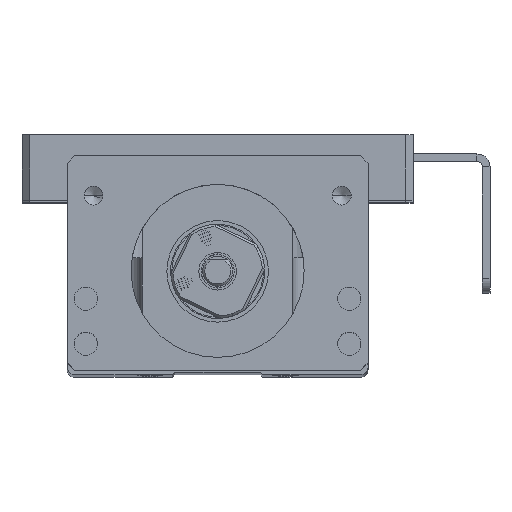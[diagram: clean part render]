
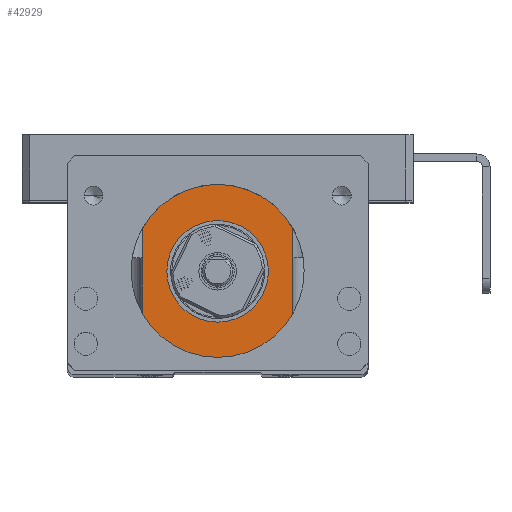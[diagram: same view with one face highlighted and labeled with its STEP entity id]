
A CAD part, top view. The second image highlights one B-rep face of the part: STEP entity #42929.
In plain terms, the highlighted planar face has unit normal (0, 0, 1).
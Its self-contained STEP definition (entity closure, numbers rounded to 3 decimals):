
#379 = ORIENTED_EDGE ( 'NONE', *, *, #13794, .F. ) ;
#3740 = CARTESIAN_POINT ( 'NONE',  ( -13., 0.5, 115. ) ) ;
#4158 = EDGE_CURVE ( 'NONE', #66725, #23850, #46951, .T. ) ;
#6674 = EDGE_LOOP ( 'NONE', ( #379, #6995 ) ) ;
#6995 = ORIENTED_EDGE ( 'NONE', *, *, #51551, .F. ) ;
#7680 = VECTOR ( 'NONE', #20726, 1000. ) ;
#8580 = CARTESIAN_POINT ( 'NONE',  ( -10., 15.5, 115. ) ) ;
#8888 = CARTESIAN_POINT ( 'NONE',  ( 0., 13.7, 115. ) ) ;
#9712 = DIRECTION ( 'NONE',  ( -1., 0., 0. ) ) ;
#13794 = EDGE_CURVE ( 'NONE', #64040, #63838, #72293, .T. ) ;
#16997 = LINE ( 'NONE', #65296, #27747 ) ;
#17534 = DIRECTION ( 'NONE',  ( 0., 0., 1. ) ) ;
#19823 = VECTOR ( 'NONE', #28355, 1000. ) ;
#20726 = DIRECTION ( 'NONE',  ( 0., 1., 0. ) ) ;
#21917 = CARTESIAN_POINT ( 'NONE',  ( -6.75, 13.7, 115. ) ) ;
#21958 = DIRECTION ( 'NONE',  ( 1., 0., 0. ) ) ;
#23850 = VERTEX_POINT ( 'NONE', #29173 ) ;
#24807 = ORIENTED_EDGE ( 'NONE', *, *, #64185, .T. ) ;
#25414 = VECTOR ( 'NONE', #58001, 1000. ) ;
#26913 = VERTEX_POINT ( 'NONE', #8580 ) ;
#27132 = PLANE ( 'NONE',  #35530 ) ;
#27747 = VECTOR ( 'NONE', #35181, 1000. ) ;
#27817 = LINE ( 'NONE', #76472, #7680 ) ;
#28355 = DIRECTION ( 'NONE',  ( 0., 1., 0. ) ) ;
#28740 = LINE ( 'NONE', #64388, #19823 ) ;
#29092 = CARTESIAN_POINT ( 'NONE',  ( -13., 0.5, 115. ) ) ;
#29173 = CARTESIAN_POINT ( 'NONE',  ( -10., 29., 115. ) ) ;
#32217 = ORIENTED_EDGE ( 'NONE', *, *, #40944, .T. ) ;
#33570 = EDGE_CURVE ( 'NONE', #41563, #72033, #27817, .T. ) ;
#35007 = CARTESIAN_POINT ( 'NONE',  ( 10., 15.5, 115. ) ) ;
#35027 = CARTESIAN_POINT ( 'NONE',  ( -13., 29., 115. ) ) ;
#35181 = DIRECTION ( 'NONE',  ( 0., -1., 0. ) ) ;
#35530 = AXIS2_PLACEMENT_3D ( 'NONE', #3740, #69867, #9712 ) ;
#35690 = CIRCLE ( 'NONE', #63571, 6.75 ) ;
#36018 = EDGE_CURVE ( 'NONE', #26913, #46728, #44992, .T. ) ;
#36406 = EDGE_LOOP ( 'NONE', ( #61181, #32217, #38965, #43931, #76347, #24807 ) ) ;
#38099 = CARTESIAN_POINT ( 'NONE',  ( 10., 0.5, 115. ) ) ;
#38965 = ORIENTED_EDGE ( 'NONE', *, *, #36018, .T. ) ;
#40673 = AXIS2_PLACEMENT_3D ( 'NONE', #65429, #17534, #41654 ) ;
#40944 = EDGE_CURVE ( 'NONE', #23850, #26913, #16997, .T. ) ;
#41563 = VERTEX_POINT ( 'NONE', #38099 ) ;
#41654 = DIRECTION ( 'NONE',  ( 1., 0., 0. ) ) ;
#42929 = ADVANCED_FACE ( 'NONE', ( #57217, #75400 ), #27132, .F. ) ;
#43931 = ORIENTED_EDGE ( 'NONE', *, *, #52459, .F. ) ;
#44992 = LINE ( 'NONE', #75807, #51172 ) ;
#46728 = VERTEX_POINT ( 'NONE', #65861 ) ;
#46951 = LINE ( 'NONE', #35027, #25414 ) ;
#51172 = VECTOR ( 'NONE', #57246, 1000. ) ;
#51551 = EDGE_CURVE ( 'NONE', #63838, #64040, #35690, .T. ) ;
#52459 = EDGE_CURVE ( 'NONE', #41563, #46728, #76562, .T. ) ;
#52598 = CARTESIAN_POINT ( 'NONE',  ( 6.75, 13.7, 115. ) ) ;
#57217 = FACE_BOUND ( 'NONE', #6674, .T. ) ;
#57246 = DIRECTION ( 'NONE',  ( 0., -1., 0. ) ) ;
#58001 = DIRECTION ( 'NONE',  ( -1., 0., 0. ) ) ;
#61181 = ORIENTED_EDGE ( 'NONE', *, *, #4158, .T. ) ;
#62378 = VECTOR ( 'NONE', #76958, 1000. ) ;
#63571 = AXIS2_PLACEMENT_3D ( 'NONE', #8888, #68675, #21958 ) ;
#63838 = VERTEX_POINT ( 'NONE', #21917 ) ;
#64040 = VERTEX_POINT ( 'NONE', #52598 ) ;
#64122 = CARTESIAN_POINT ( 'NONE',  ( 10., 29., 115. ) ) ;
#64185 = EDGE_CURVE ( 'NONE', #72033, #66725, #28740, .T. ) ;
#64388 = CARTESIAN_POINT ( 'NONE',  ( 10., 29., 115. ) ) ;
#65296 = CARTESIAN_POINT ( 'NONE',  ( -10., 0.5, 115. ) ) ;
#65429 = CARTESIAN_POINT ( 'NONE',  ( 0., 13.7, 115. ) ) ;
#65861 = CARTESIAN_POINT ( 'NONE',  ( -10., 0.5, 115. ) ) ;
#66725 = VERTEX_POINT ( 'NONE', #64122 ) ;
#68675 = DIRECTION ( 'NONE',  ( 0., 0., 1. ) ) ;
#69867 = DIRECTION ( 'NONE',  ( 0., 0., -1. ) ) ;
#72033 = VERTEX_POINT ( 'NONE', #35007 ) ;
#72293 = CIRCLE ( 'NONE', #40673, 6.75 ) ;
#75400 = FACE_OUTER_BOUND ( 'NONE', #36406, .T. ) ;
#75807 = CARTESIAN_POINT ( 'NONE',  ( -10., 0.5, 115. ) ) ;
#76347 = ORIENTED_EDGE ( 'NONE', *, *, #33570, .T. ) ;
#76472 = CARTESIAN_POINT ( 'NONE',  ( 10., 29., 115. ) ) ;
#76562 = LINE ( 'NONE', #29092, #62378 ) ;
#76958 = DIRECTION ( 'NONE',  ( -1., 0., 0. ) ) ;
